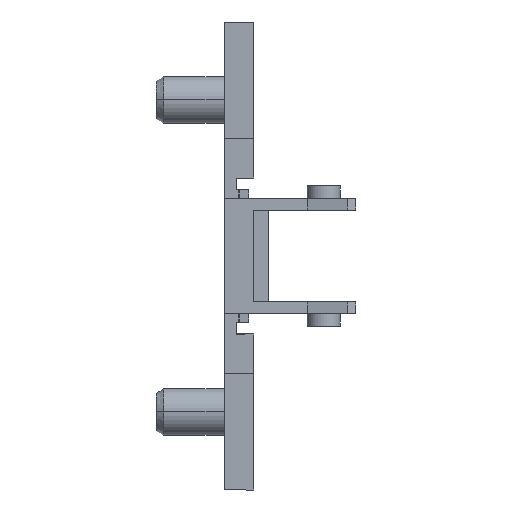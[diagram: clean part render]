
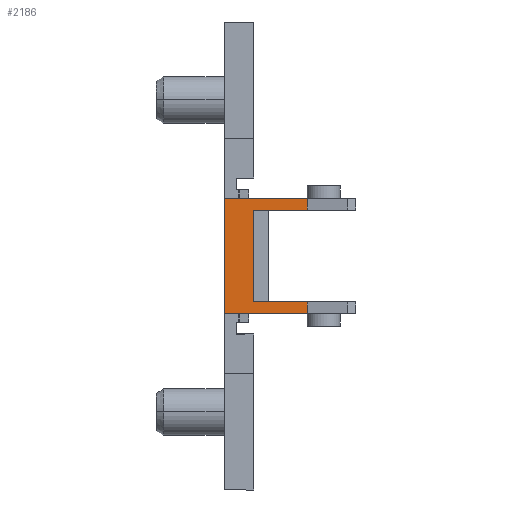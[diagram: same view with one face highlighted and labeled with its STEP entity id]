
A CAD part, front view. The second image highlights one B-rep face of the part: STEP entity #2186.
In plain terms, the highlighted planar face has unit normal (0, -1, 0).
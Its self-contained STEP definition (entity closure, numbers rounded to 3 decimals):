
#135 = EDGE_CURVE ( 'NONE', #2094, #2023, #1421, .T. ) ;
#156 = EDGE_CURVE ( 'NONE', #1937, #2121, #1454, .T. ) ;
#217 = DIRECTION ( 'NONE',  ( 0., 0., -1. ) ) ;
#231 = CARTESIAN_POINT ( 'NONE',  ( 3., -16.55, -5.9 ) ) ;
#267 = CARTESIAN_POINT ( 'NONE',  ( 13.5, -16.55, 4.7 ) ) ;
#268 = DIRECTION ( 'NONE',  ( 1., 0., 0. ) ) ;
#337 = EDGE_LOOP ( 'NONE', ( #1152, #1151, #1150, #1149, #1148, #1147, #1146, #1145 ) ) ;
#1145 = ORIENTED_EDGE ( 'NONE', *, *, #135, .F. ) ;
#1146 = ORIENTED_EDGE ( 'NONE', *, *, #1596, .F. ) ;
#1147 = ORIENTED_EDGE ( 'NONE', *, *, #1798, .T. ) ;
#1148 = ORIENTED_EDGE ( 'NONE', *, *, #156, .T. ) ;
#1149 = ORIENTED_EDGE ( 'NONE', *, *, #1913, .T. ) ;
#1150 = ORIENTED_EDGE ( 'NONE', *, *, #1917, .F. ) ;
#1151 = ORIENTED_EDGE ( 'NONE', *, *, #1753, .T. ) ;
#1152 = ORIENTED_EDGE ( 'NONE', *, *, #1730, .F. ) ;
#1421 = LINE ( 'NONE', #3574, #1422 ) ;
#1422 = VECTOR ( 'NONE', #3575, 1000. ) ;
#1444 = VECTOR ( 'NONE', #3627, 1000. ) ;
#1454 = LINE ( 'NONE', #3622, #1444 ) ;
#1596 = EDGE_CURVE ( 'NONE', #2023, #1948, #4055, .T. ) ;
#1730 = EDGE_CURVE ( 'NONE', #1975, #2094, #4178, .T. ) ;
#1753 = EDGE_CURVE ( 'NONE', #1975, #2042, #4197, .T. ) ;
#1798 = EDGE_CURVE ( 'NONE', #2121, #1948, #4248, .T. ) ;
#1821 = AXIS2_PLACEMENT_3D ( 'NONE', #2679, #2685, #2686 ) ;
#1913 = EDGE_CURVE ( 'NONE', #2131, #1937, #4339, .T. ) ;
#1917 = EDGE_CURVE ( 'NONE', #2131, #2042, #4317, .T. ) ;
#1937 = VERTEX_POINT ( 'NONE', #2420 ) ;
#1948 = VERTEX_POINT ( 'NONE', #2430 ) ;
#1975 = VERTEX_POINT ( 'NONE', #2457 ) ;
#2023 = VERTEX_POINT ( 'NONE', #2505 ) ;
#2042 = VERTEX_POINT ( 'NONE', #2524 ) ;
#2094 = VERTEX_POINT ( 'NONE', #2576 ) ;
#2121 = VERTEX_POINT ( 'NONE', #2602 ) ;
#2131 = VERTEX_POINT ( 'NONE', #2612 ) ;
#2186 = ADVANCED_FACE ( 'NONE', ( #4358 ), #2676, .T. ) ;
#2267 = CARTESIAN_POINT ( 'NONE',  ( 1.5, -16.55, -5.9 ) ) ;
#2268 = DIRECTION ( 'NONE',  ( 1., 0., 0. ) ) ;
#2389 = CARTESIAN_POINT ( 'NONE',  ( 13.5, -16.55, 5.9 ) ) ;
#2390 = DIRECTION ( 'NONE',  ( -1., 0., 0. ) ) ;
#2394 = CARTESIAN_POINT ( 'NONE',  ( 8.523, -16.55, 67.733 ) ) ;
#2395 = DIRECTION ( 'NONE',  ( 0., 0., -1. ) ) ;
#2420 = CARTESIAN_POINT ( 'NONE',  ( 0., -16.55, 5.9 ) ) ;
#2430 = CARTESIAN_POINT ( 'NONE',  ( 8.523, -16.55, -5.9 ) ) ;
#2457 = CARTESIAN_POINT ( 'NONE',  ( 3., -16.55, 4.7 ) ) ;
#2505 = CARTESIAN_POINT ( 'NONE',  ( 8.523, -16.55, -4.7 ) ) ;
#2524 = CARTESIAN_POINT ( 'NONE',  ( 8.523, -16.55, 4.7 ) ) ;
#2576 = CARTESIAN_POINT ( 'NONE',  ( 3., -16.55, -4.7 ) ) ;
#2602 = CARTESIAN_POINT ( 'NONE',  ( 0., -16.55, -5.9 ) ) ;
#2612 = CARTESIAN_POINT ( 'NONE',  ( 8.523, -16.55, 5.9 ) ) ;
#2676 = PLANE ( 'NONE',  #1821 ) ;
#2679 = CARTESIAN_POINT ( 'NONE',  ( 13.5, -16.55, -5.9 ) ) ;
#2685 = DIRECTION ( 'NONE',  ( 0., -1., 0. ) ) ;
#2686 = DIRECTION ( 'NONE',  ( -1., 0., 0. ) ) ;
#3574 = CARTESIAN_POINT ( 'NONE',  ( 13.5, -16.55, -4.7 ) ) ;
#3575 = DIRECTION ( 'NONE',  ( 1., 0., 0. ) ) ;
#3622 = CARTESIAN_POINT ( 'NONE',  ( 0., -16.55, 15.37 ) ) ;
#3627 = DIRECTION ( 'NONE',  ( 0., 0., -1. ) ) ;
#3829 = CARTESIAN_POINT ( 'NONE',  ( 8.523, -16.55, 67.733 ) ) ;
#3840 = DIRECTION ( 'NONE',  ( 0., 0., -1. ) ) ;
#4055 = LINE ( 'NONE', #3829, #4059 ) ;
#4059 = VECTOR ( 'NONE', #3840, 1000. ) ;
#4178 = LINE ( 'NONE', #231, #4180 ) ;
#4180 = VECTOR ( 'NONE', #217, 1000. ) ;
#4193 = VECTOR ( 'NONE', #268, 1000. ) ;
#4197 = LINE ( 'NONE', #267, #4193 ) ;
#4248 = LINE ( 'NONE', #2267, #4249 ) ;
#4249 = VECTOR ( 'NONE', #2268, 1000. ) ;
#4317 = LINE ( 'NONE', #2394, #4318 ) ;
#4318 = VECTOR ( 'NONE', #2395, 1000. ) ;
#4339 = LINE ( 'NONE', #2389, #4340 ) ;
#4340 = VECTOR ( 'NONE', #2390, 1000. ) ;
#4358 = FACE_OUTER_BOUND ( 'NONE', #337, .T. ) ;
